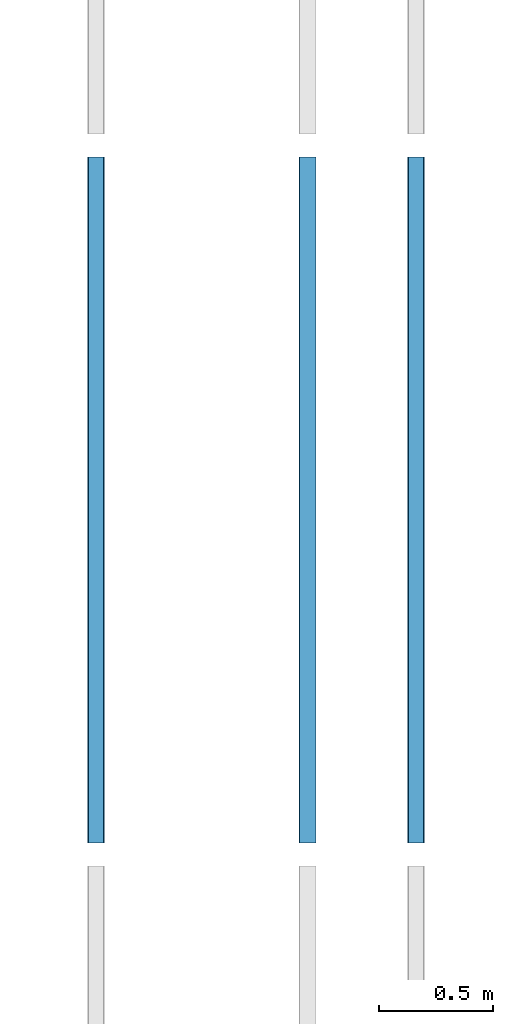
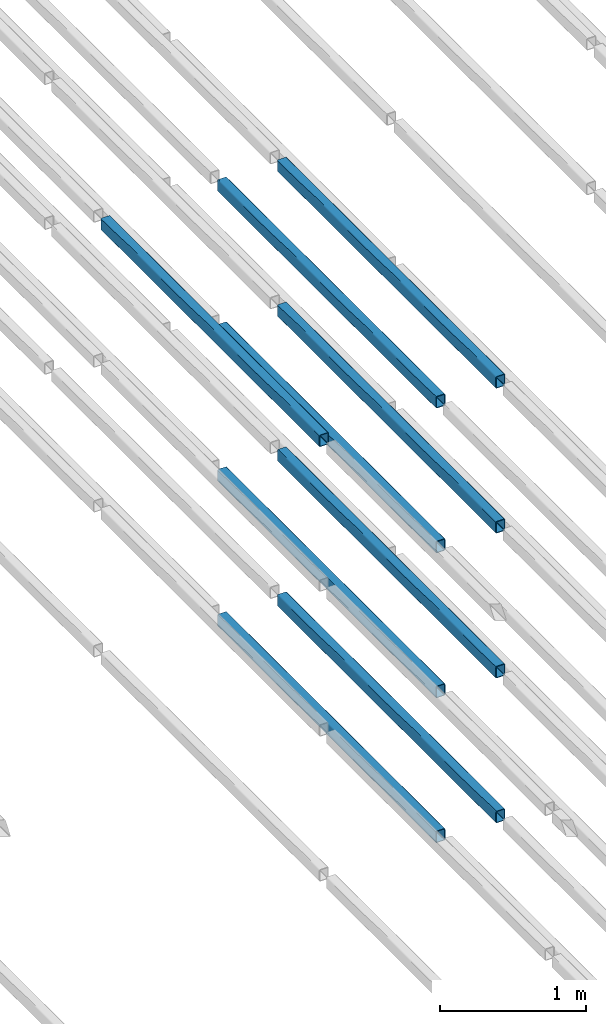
# One storey, part 84 of 290: 9 beams.
"""IFC2X3 building model written with IfcOpenShell, lengths in metres."""

import ifcopenshell
import ifcopenshell.guid

model = None  # the IFC model being written
_history = None  # IfcOwnerHistory: only IFC2X3 demands one
_inside = {}  # id of a spatial element -> (the spatial element, [elements in it])
_under = {}  # id of a project, library or spatial element -> (it, [spatial elements below it])
_declared = {}  # id of a project -> (the project, [libraries it declares])
_typed = {}  # id of a type object -> (the type object, [elements of that type])
_made_of = {}  # id of a material, layer set ... -> (it, [elements and type objects made of it])


def new_model(schema):
    """Start an empty IFC model of exactly this schema.

    Asked for "IFC4X3", IfcOpenShell would pick the latest addendum, in which some entities
    have other attributes; the version numbers below select the first issue.
    IFC2X3 requires an IfcOwnerHistory on every rooted entity: one is made here for all.
    """
    global model, _history
    if schema == "IFC4X3":
        model = ifcopenshell.file(schema_version=(4, 3, 0, 0))
    else:
        model = ifcopenshell.file(schema=schema)
    _inside.clear()
    _under.clear()
    _declared.clear()
    _typed.clear()
    _made_of.clear()
    _history = None
    if model.schema == "IFC2X3":
        org = make("IfcOrganization", Name="unknown")
        user = make(
            "IfcPersonAndOrganization",
            ThePerson=make("IfcPerson", FamilyName="unknown"),
            TheOrganization=org,
        )
        app = make(
            "IfcApplication",
            ApplicationDeveloper=org,
            Version="unknown",
            ApplicationFullName="unknown",
            ApplicationIdentifier="unknown",
        )
        _history = make(
            "IfcOwnerHistory",
            OwningUser=user,
            OwningApplication=app,
            ChangeAction="ADDED",
            CreationDate=0,
        )
    return model


def make(cls, **values):
    """One entity of the class cls with the attributes given. An attribute that is None is left unset."""
    return model.create_entity(
        cls, **{name: value for name, value in values.items() if value is not None}
    )


def entity(cls, *values):
    """Any entity or typed value of the class cls, its attributes in the order of the schema. None: left unset."""
    e = model.create_entity(cls)
    for i, value in enumerate(values):
        if value is not None:
            e[i] = value
    return e


def rooted(cls, **values):
    """An entity with a GlobalId (a new one), such as an element, a storey or a relation."""
    return make(cls, GlobalId=ifcopenshell.guid.new(), OwnerHistory=_history, **values)


def si_unit(unit_type, name, prefix=None):
    """IfcSIUnit, for example si_unit("LENGTHUNIT", "METRE", prefix="MILLI")."""
    return make("IfcSIUnit", UnitType=unit_type, Prefix=prefix, Name=name)


def converted_unit(unit_type, name, factor, base, dimensions=None, offset=None):
    """IfcConversionBasedUnit, such as the inch: factor (a typed value) times the base unit."""
    return make(
        "IfcConversionBasedUnit"
        if offset is None
        else "IfcConversionBasedUnitWithOffset",
        ConversionOffset=offset,
        Dimensions=None
        if dimensions is None
        else entity("IfcDimensionalExponents", *dimensions),
        UnitType=unit_type,
        Name=name,
        ConversionFactor=make(
            "IfcMeasureWithUnit", ValueComponent=factor, UnitComponent=base
        ),
    )


def derived_unit(unit_type, elements):
    """IfcDerivedUnit: a product of units, each with its exponent."""
    return make(
        "IfcDerivedUnit",
        Elements=[
            make("IfcDerivedUnitElement", Unit=unit, Exponent=power)
            for unit, power in elements
        ],
        UnitType=unit_type,
    )


def assignment(units):
    """IfcUnitAssignment: the units of a project."""
    return None if units is None else make("IfcUnitAssignment", Units=units)


def point(xyz):
    """IfcCartesianPoint."""
    return None if xyz is None else make("IfcCartesianPoint", Coordinates=xyz)


def direction(xyz):
    """IfcDirection."""
    return None if xyz is None else make("IfcDirection", DirectionRatios=xyz)


def frame(location, z_axis=None, x_axis=None):
    """IfcAxis2Placement3D, a coordinate frame: its origin and axes. An axis left out is left unset."""
    return make(
        "IfcAxis2Placement3D",
        Location=point(location),
        Axis=direction(z_axis),
        RefDirection=direction(x_axis),
    )


def frame_2d(location, x_axis=None):
    """IfcAxis2Placement2D, a coordinate frame in the plane: its origin and x axis."""
    return make(
        "IfcAxis2Placement2D", Location=point(location), RefDirection=direction(x_axis)
    )


def origin():
    """The frame at (0, 0, 0) with its axes left unset."""
    return frame((0.0, 0.0, 0.0))


def place(relative_to, where):
    """IfcLocalPlacement: puts the frame where relative to a parent placement (None: the world)."""
    return make(
        "IfcLocalPlacement", PlacementRelTo=relative_to, RelativePlacement=where
    )


def context(
    kind, dimensions, precision=None, world=None, true_north=None, identifier=None
):
    """IfcGeometricRepresentationContext, for example the 3D "Model" context."""
    return make(
        "IfcGeometricRepresentationContext",
        ContextIdentifier=identifier,
        ContextType=kind,
        CoordinateSpaceDimension=dimensions,
        Precision=precision,
        WorldCoordinateSystem=world,
        TrueNorth=true_north,
    )


def subcontext(parent, identifier, kind, view, scale=None):
    """IfcGeometricRepresentationSubContext, for example "Body" below "Model"."""
    return make(
        "IfcGeometricRepresentationSubContext",
        ContextIdentifier=identifier,
        ContextType=kind,
        ParentContext=parent,
        TargetScale=scale,
        TargetView=view,
    )


def project(units=None, contexts=None):
    """IfcProject with its units and contexts."""
    return rooted(
        "IfcProject",
        Name="project",
        RepresentationContexts=contexts,
        UnitsInContext=assignment(units),
    )


def spatial(cls, under=None, at=None, **own):
    """A site, building, storey or space (cls), placed at a placement, below another one or the project."""
    s = rooted(cls, ObjectPlacement=at, **own)
    if under is not None:
        _under.setdefault(under.id(), (under, []))[1].append(s)
    return s


def polyline(points):
    """IfcPolyline through the points."""
    return make("IfcPolyline", Points=[point(p) for p in points])


def circle_curve(where, radius):
    """IfcCircle in the frame where."""
    return make("IfcCircle", Position=where, Radius=radius)


def parameter(value):
    """IfcParameterValue: where a trimmed curve begins or ends, as a parameter of its basis curve."""
    return model.create_entity("IfcParameterValue", value)


def trimmed(basis, trim1, trim2, sense, master):
    """IfcTrimmedCurve: the piece of a basis curve between two trims."""
    return make(
        "IfcTrimmedCurve",
        BasisCurve=basis,
        Trim1=trim1,
        Trim2=trim2,
        SenseAgreement=sense,
        MasterRepresentation=master,
    )


def segment(curve, same_sense, transition):
    """IfcCompositeCurveSegment."""
    return make(
        "IfcCompositeCurveSegment",
        Transition=transition,
        SameSense=same_sense,
        ParentCurve=curve,
    )


def composite_curve(segments, self_intersect=None):
    """IfcCompositeCurve: segments joined end to end."""
    return make("IfcCompositeCurve", Segments=segments, SelfIntersect=self_intersect)


def outline(outer, holes=None, kind="AREA"):
    """IfcArbitraryClosedProfileDef: a profile drawn as a closed curve; with holes, ...WithVoids."""
    if holes is None:
        return make("IfcArbitraryClosedProfileDef", ProfileType=kind, OuterCurve=outer)
    return make(
        "IfcArbitraryProfileDefWithVoids",
        ProfileType=kind,
        OuterCurve=outer,
        InnerCurves=holes,
    )


def extrude(swept, where, along, depth):
    """IfcExtrudedAreaSolid: the profile swept, set in the frame where, extruded along a direction by depth."""
    return make(
        "IfcExtrudedAreaSolid",
        SweptArea=swept,
        Position=where,
        ExtrudedDirection=direction(along),
        Depth=depth,
    )


def shape(context_of_items, identifier, shape_type, items):
    """IfcShapeRepresentation: the items that make up one representation, for example the "Body"."""
    return make(
        "IfcShapeRepresentation",
        ContextOfItems=context_of_items,
        RepresentationIdentifier=identifier,
        RepresentationType=shape_type,
        Items=items,
    )


def material(Name=None, Category=None):
    """IfcMaterial."""
    return make("IfcMaterial", Name=Name, Category=Category)


def made_of(thing, what):
    """Note that an element or type object is made of a material, layer set ...; save() writes the relation."""
    if what is not None:
        _made_of.setdefault(what.id(), (what, []))[1].append(thing)
    return thing


def type_object(cls, material=None, **own):
    """A type object (cls), such as IfcWallType, which elements share."""
    return made_of(rooted(cls, **own), material)


def element(
    cls,
    number,
    at=None,
    inside=None,
    cuts=None,
    type_object=None,
    material=None,
    context=None,
    identifier="Body",
    shape_type=None,
    held_by="IfcProductDefinitionShape",
    body=None,
    shapes=None,
    **own,
):
    """One element of the class cls, such as IfcWall. Its Tag is "e" and its number.

    at: its placement. inside: the storey or other place that contains it. cuts: it is an
    opening in that element (IfcRelVoidsElement). A single representation is given by context,
    identifier, shape_type and body (its items); several are given by shapes. held_by: the class
    of the entity that holds the representations. save() writes the other relations.
    """
    e = rooted(cls, Tag="e%d" % number, ObjectPlacement=at, **own)
    if body is not None:
        shapes = [shape(context, identifier, shape_type, body)]
    if shapes is not None:
        e.Representation = make(held_by, Representations=shapes)
    if inside is not None:
        _inside.setdefault(inside.id(), (inside, []))[1].append(e)
    if cuts is not None:
        rooted(
            "IfcRelVoidsElement", RelatingBuildingElement=cuts, RelatedOpeningElement=e
        )
    if type_object is not None:
        _typed.setdefault(type_object.id(), (type_object, []))[1].append(e)
    return made_of(e, material)


def aggregate(whole, parts):
    """IfcRelAggregates: a whole, such as a stair, and the parts it consists of."""
    return rooted("IfcRelAggregates", RelatingObject=whole, RelatedObjects=parts)


def save(model, path):
    """Write the relations noted so far, then the file.

    IfcRelAggregates (storeys below a building ...), IfcRelContainedInSpatialStructure (elements
    in a storey), IfcRelDefinesByType, IfcRelAssociatesMaterial and IfcRelDeclares: one each for
    every whole, place, type object, material and project.
    """
    for whole, parts in _under.values():
        aggregate(whole, parts)
    for where, things in _inside.values():
        rooted(
            "IfcRelContainedInSpatialStructure",
            RelatedElements=things,
            RelatingStructure=where,
        )
    for kind, things in _typed.values():
        rooted("IfcRelDefinesByType", RelatedObjects=things, RelatingType=kind)
    for what, things in _made_of.values():
        rooted("IfcRelAssociatesMaterial", RelatedObjects=things, RelatingMaterial=what)
    for by, libraries in _declared.values():
        rooted("IfcRelDeclares", RelatingContext=by, RelatedDefinitions=libraries)
    model.write(path)


model = new_model("IFC2X3")

# Units and contexts
model_context = context("Model", 3, precision=1e-05, world=origin(), true_north=direction((6.12303176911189e-17, 1.0)))
body_context = subcontext(model_context, "Body", "Model", "MODEL_VIEW")
ifc_project = project(units=[si_unit("LENGTHUNIT", "METRE"), si_unit("AREAUNIT", "SQUARE_METRE"), si_unit("VOLUMEUNIT", "CUBIC_METRE"), converted_unit("PLANEANGLEUNIT", "DEGREE", entity("IfcRatioMeasure", 0.0174532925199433), si_unit("PLANEANGLEUNIT", "RADIAN"), dimensions=[0, 0, 0, 0, 0, 0, 0]), si_unit("MASSUNIT", "GRAM", prefix="KILO"), derived_unit("MASSDENSITYUNIT", [(si_unit("MASSUNIT", "GRAM", prefix="KILO"), 1), (si_unit("LENGTHUNIT", "METRE"), -3)]), derived_unit("MOMENTOFINERTIAUNIT", [(si_unit("LENGTHUNIT", "METRE"), 4)]), si_unit("TIMEUNIT", "SECOND"), si_unit("FREQUENCYUNIT", "HERTZ"), si_unit("THERMODYNAMICTEMPERATUREUNIT", "DEGREE_CELSIUS"), derived_unit("THERMALTRANSMITTANCEUNIT", [(si_unit("MASSUNIT", "GRAM", prefix="KILO"), 1), (si_unit("THERMODYNAMICTEMPERATUREUNIT", "KELVIN"), -1), (si_unit("TIMEUNIT", "SECOND"), -3)]), derived_unit("VOLUMETRICFLOWRATEUNIT", [(si_unit("LENGTHUNIT", "METRE"), 3), (si_unit("TIMEUNIT", "SECOND"), -1)]), si_unit("ELECTRICCURRENTUNIT", "AMPERE"), si_unit("ELECTRICVOLTAGEUNIT", "VOLT"), si_unit("POWERUNIT", "WATT"), si_unit("FORCEUNIT", "NEWTON", prefix="KILO"), si_unit("ILLUMINANCEUNIT", "LUX"), si_unit("LUMINOUSFLUXUNIT", "LUMEN"), si_unit("LUMINOUSINTENSITYUNIT", "CANDELA"), derived_unit("USERDEFINED", [(si_unit("MASSUNIT", "GRAM", prefix="KILO"), -1), (si_unit("LENGTHUNIT", "METRE"), -2), (si_unit("TIMEUNIT", "SECOND"), 3), (si_unit("LUMINOUSFLUXUNIT", "LUMEN"), 1)]), derived_unit("LINEARVELOCITYUNIT", [(si_unit("LENGTHUNIT", "METRE"), 1), (si_unit("TIMEUNIT", "SECOND"), -1)]), si_unit("PRESSUREUNIT", "PASCAL"), derived_unit("USERDEFINED", [(si_unit("LENGTHUNIT", "METRE"), -2), (si_unit("MASSUNIT", "GRAM", prefix="KILO"), 1), (si_unit("TIMEUNIT", "SECOND"), -2)]), derived_unit("LINEARFORCEUNIT", [(si_unit("MASSUNIT", "GRAM", prefix="KILO"), 1), (si_unit("LENGTHUNIT", "METRE"), 1), (si_unit("TIMEUNIT", "SECOND"), -2), (si_unit("LENGTHUNIT", "METRE"), -1)]), derived_unit("PLANARFORCEUNIT", [(si_unit("MASSUNIT", "GRAM", prefix="KILO"), 1), (si_unit("LENGTHUNIT", "METRE"), 1), (si_unit("TIMEUNIT", "SECOND"), -2), (si_unit("LENGTHUNIT", "METRE"), -2)])], contexts=[model_context])

# Site, building, storey
site_placement = place(None, origin())
site = spatial("IfcSite", under=ifc_project, at=site_placement, Name="Default", CompositionType="ELEMENT")
building_placement = place(site_placement, origin())
building = spatial("IfcBuilding", under=site, at=building_placement, CompositionType="ELEMENT")
storey_placement = place(building_placement, frame((0.0, 0.0, 4.0)))
storey = spatial("IfcBuildingStorey", under=building, at=storey_placement, Name="01_OG", CompositionType="ELEMENT", Elevation=4.0)

# Beams
ifc_material = material(Name="Metall - Baustahl S235 blau")
beam_type = type_object("IfcBeamType", Name="RHS Träger (EN 10219-2):RHS 100 x 75 x 5", PredefinedType="NOTDEFINED")
beam_1_placement = place(storey_placement, frame((-185.015111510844, 39.548088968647, 2.445), z_axis=(0.0, 0.0, 1.0), x_axis=(0.0, 1.0, 0.0)))
element("IfcBeam", 1, at=beam_1_placement, inside=storey, type_object=beam_type, material=ifc_material, Name="RHS Träger (EN 10219-2):RHS 100 x 75 x 5", ObjectType="RHS Träger (EN 10219-2):RHS 100 x 75 x 5", context=body_context, shape_type="SweptSolid", body=[
    extrude(outline(composite_curve([segment(trimmed(circle_curve(frame_2d((-0.0274999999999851, -0.0399999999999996), x_axis=(1.0, 0.0)), 0.01), [parameter(180.0)], [parameter(270.0)], True, "PARAMETER"), True, "CONTINUOUS"), segment(polyline([(-0.0274999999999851, -0.0499999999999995), (0.0274999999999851, -0.0499999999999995)]), True, "CONTINUOUS"), segment(trimmed(circle_curve(frame_2d((0.0274999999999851, -0.0399999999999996), x_axis=(1.0, 0.0)), 0.01), [parameter(270.0)], [parameter(5.08888749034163e-14)], True, "PARAMETER"), True, "CONTINUOUS"), segment(polyline([(0.0375000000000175, -0.0399999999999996), (0.0375000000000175, 0.0399999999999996)]), True, "CONTINUOUS"), segment(trimmed(circle_curve(frame_2d((0.0274999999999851, 0.0399999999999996), x_axis=(1.0, 0.0)), 0.01), [parameter(360.0)], [parameter(89.9999999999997)], True, "PARAMETER"), True, "CONTINUOUS"), segment(polyline([(0.0274999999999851, 0.0500000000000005), (-0.0274999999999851, 0.0500000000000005)]), True, "CONTINUOUS"), segment(trimmed(circle_curve(frame_2d((-0.0274999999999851, 0.0399999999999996), x_axis=(1.0, 0.0)), 0.01), [parameter(90.0000000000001)], [parameter(180.0)], True, "PARAMETER"), True, "CONTINUOUS"), segment(polyline([(-0.0374999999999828, 0.0399999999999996), (-0.0374999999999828, -0.0399999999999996)]), True, "CONTINUOUS")], self_intersect=False), holes=[composite_curve([segment(polyline([(0.0274999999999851, -0.0450000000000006), (-0.0274999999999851, -0.0450000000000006)]), True, "CONTINUOUS"), segment(trimmed(circle_curve(frame_2d((-0.0274999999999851, -0.0400000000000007), x_axis=(1.0, 0.0)), 0.005), [parameter(180.0)], [parameter(270.0)], True, "PARAMETER"), False, "CONTINUOUS"), segment(polyline([(-0.0325000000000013, -0.0400000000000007), (-0.0325000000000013, 0.0399999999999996)]), True, "CONTINUOUS"), segment(trimmed(circle_curve(frame_2d((-0.0274999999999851, 0.0399999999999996), x_axis=(1.0, 0.0)), 0.005), [parameter(90.0000000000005)], [parameter(180.0)], True, "PARAMETER"), False, "CONTINUOUS"), segment(polyline([(-0.0274999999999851, 0.0449999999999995), (0.0274999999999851, 0.0449999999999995)]), True, "CONTINUOUS"), segment(trimmed(circle_curve(frame_2d((0.0274999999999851, 0.0399999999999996), x_axis=(1.0, 0.0)), 0.005), [parameter(0.0)], [parameter(90.0000000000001)], True, "PARAMETER"), False, "CONTINUOUS"), segment(polyline([(0.0325000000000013, 0.0399999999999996), (0.0325000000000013, -0.0400000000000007)]), True, "CONTINUOUS"), segment(trimmed(circle_curve(frame_2d((0.0274999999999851, -0.0400000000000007), x_axis=(1.0, 0.0)), 0.005), [parameter(270.0)], [parameter(4.07110999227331e-13)], True, "PARAMETER"), False, "CONTINUOUS")], self_intersect=False)]), frame((0.000100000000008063, 0.0375000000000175, -0.0500000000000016), z_axis=(1.0, 0.0, 0.0), x_axis=(0.0, -1.0, 0.0)), (0.0, 0.0, 1.0), 2.99979999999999),
])
beam_2_placement = place(storey_placement, frame((-184.165111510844, 39.548088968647, -1.2), z_axis=(0.0, 0.0, 1.0), x_axis=(0.0, 1.0, 0.0)))
element("IfcBeam", 2, at=beam_2_placement, inside=storey, type_object=beam_type, material=ifc_material, Name="RHS Träger (EN 10219-2):RHS 100 x 75 x 5", ObjectType="RHS Träger (EN 10219-2):RHS 100 x 75 x 5", context=body_context, shape_type="SweptSolid", body=[
    extrude(outline(composite_curve([segment(polyline([(-0.0400000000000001, -0.0374999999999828), (0.0400000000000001, -0.0374999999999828)]), True, "CONTINUOUS"), segment(trimmed(circle_curve(frame_2d((0.0400000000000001, -0.0274999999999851), x_axis=(0.0, 1.0)), 0.01), [parameter(180.0)], [parameter(270.0)], True, "PARAMETER"), True, "CONTINUOUS"), segment(polyline([(0.05, -0.0274999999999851), (0.05, 0.0274999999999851)]), True, "CONTINUOUS"), segment(trimmed(circle_curve(frame_2d((0.0400000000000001, 0.0274999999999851), x_axis=(0.0, 1.0)), 0.01), [parameter(270.0)], [parameter(4.07110999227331e-13)], True, "PARAMETER"), True, "CONTINUOUS"), segment(polyline([(0.0400000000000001, 0.0375000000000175), (-0.0400000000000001, 0.0375000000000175)]), True, "CONTINUOUS"), segment(trimmed(circle_curve(frame_2d((-0.0400000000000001, 0.0274999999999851), x_axis=(0.0, 1.0)), 0.01), [parameter(360.0)], [parameter(90.0000000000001)], True, "PARAMETER"), True, "CONTINUOUS"), segment(polyline([(-0.05, 0.0274999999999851), (-0.05, -0.0274999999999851)]), True, "CONTINUOUS"), segment(trimmed(circle_curve(frame_2d((-0.0400000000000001, -0.0274999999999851), x_axis=(0.0, 1.0)), 0.01), [parameter(90.0000000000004)], [parameter(180.0)], True, "PARAMETER"), True, "CONTINUOUS")], self_intersect=False), holes=[composite_curve([segment(trimmed(circle_curve(frame_2d((-0.0400000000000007, 0.0274999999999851), x_axis=(0.0, 1.0)), 0.005), [parameter(360.0)], [parameter(89.9999999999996)], True, "PARAMETER"), False, "CONTINUOUS"), segment(polyline([(-0.0400000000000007, 0.0325000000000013), (0.039999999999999, 0.0325000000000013)]), True, "CONTINUOUS"), segment(trimmed(circle_curve(frame_2d((0.039999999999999, 0.0274999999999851), x_axis=(0.0, 1.0)), 0.005), [parameter(270.0)], [parameter(0.0)], True, "PARAMETER"), False, "CONTINUOUS"), segment(polyline([(0.044999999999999, 0.0274999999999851), (0.044999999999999, -0.0274999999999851)]), True, "CONTINUOUS"), segment(trimmed(circle_curve(frame_2d((0.039999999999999, -0.0274999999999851), x_axis=(0.0, 1.0)), 0.005), [parameter(180.0)], [parameter(269.999999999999)], True, "PARAMETER"), False, "CONTINUOUS"), segment(polyline([(0.039999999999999, -0.0325000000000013), (-0.0400000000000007, -0.0325000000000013)]), True, "CONTINUOUS"), segment(trimmed(circle_curve(frame_2d((-0.0400000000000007, -0.0274999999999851), x_axis=(0.0, 1.0)), 0.005), [parameter(90.0000000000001)], [parameter(180.0)], True, "PARAMETER"), False, "CONTINUOUS"), segment(polyline([(-0.0450000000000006, -0.0274999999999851), (-0.0450000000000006, 0.0274999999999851)]), True, "CONTINUOUS")], self_intersect=False)]), frame((0.000100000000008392, -0.0375000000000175, -0.0500000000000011), z_axis=(1.0, 0.0, 0.0), x_axis=(0.0, 0.0, -1.0)), (0.0, 0.0, 1.0), 2.99979999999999),
])
beam_3_placement = place(storey_placement, frame((-184.165111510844, 39.548088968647, 0.0150000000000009), z_axis=(0.0, 0.0, 1.0), x_axis=(0.0, 1.0, 0.0)))
element("IfcBeam", 3, at=beam_3_placement, inside=storey, type_object=beam_type, material=ifc_material, Name="RHS Träger (EN 10219-2):RHS 100 x 75 x 5", ObjectType="RHS Träger (EN 10219-2):RHS 100 x 75 x 5", context=body_context, shape_type="SweptSolid", body=[
    extrude(outline(composite_curve([segment(polyline([(-0.0400000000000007, -0.0374999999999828), (0.0399999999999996, -0.0374999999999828)]), True, "CONTINUOUS"), segment(trimmed(circle_curve(frame_2d((0.0399999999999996, -0.0274999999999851), x_axis=(0.0, 1.0)), 0.01), [parameter(180.0)], [parameter(270.0)], True, "PARAMETER"), True, "CONTINUOUS"), segment(polyline([(0.0499999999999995, -0.0274999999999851), (0.0499999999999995, 0.0274999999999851)]), True, "CONTINUOUS"), segment(trimmed(circle_curve(frame_2d((0.0399999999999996, 0.0274999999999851), x_axis=(0.0, 1.0)), 0.01), [parameter(270.0)], [parameter(4.07110999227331e-13)], True, "PARAMETER"), True, "CONTINUOUS"), segment(polyline([(0.0399999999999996, 0.0375000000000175), (-0.0400000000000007, 0.0375000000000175)]), True, "CONTINUOUS"), segment(trimmed(circle_curve(frame_2d((-0.0400000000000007, 0.0274999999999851), x_axis=(0.0, 1.0)), 0.01), [parameter(360.0)], [parameter(90.0000000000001)], True, "PARAMETER"), True, "CONTINUOUS"), segment(polyline([(-0.0500000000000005, 0.0274999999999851), (-0.0500000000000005, -0.0274999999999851)]), True, "CONTINUOUS"), segment(trimmed(circle_curve(frame_2d((-0.0400000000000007, -0.0274999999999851), x_axis=(0.0, 1.0)), 0.01), [parameter(90.0000000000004)], [parameter(180.0)], True, "PARAMETER"), True, "CONTINUOUS")], self_intersect=False), holes=[composite_curve([segment(trimmed(circle_curve(frame_2d((-0.0400000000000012, 0.0274999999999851), x_axis=(0.0, 1.0)), 0.005), [parameter(360.0)], [parameter(89.9999999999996)], True, "PARAMETER"), False, "CONTINUOUS"), segment(polyline([(-0.0400000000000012, 0.0325000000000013), (0.0399999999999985, 0.0325000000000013)]), True, "CONTINUOUS"), segment(trimmed(circle_curve(frame_2d((0.0399999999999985, 0.0274999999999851), x_axis=(0.0, 1.0)), 0.005), [parameter(270.0)], [parameter(0.0)], True, "PARAMETER"), False, "CONTINUOUS"), segment(polyline([(0.0449999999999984, 0.0274999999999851), (0.0449999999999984, -0.0274999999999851)]), True, "CONTINUOUS"), segment(trimmed(circle_curve(frame_2d((0.0399999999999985, -0.0274999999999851), x_axis=(0.0, 1.0)), 0.005), [parameter(180.0)], [parameter(269.999999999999)], True, "PARAMETER"), False, "CONTINUOUS"), segment(polyline([(0.0399999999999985, -0.0325000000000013), (-0.0400000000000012, -0.0325000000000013)]), True, "CONTINUOUS"), segment(trimmed(circle_curve(frame_2d((-0.0400000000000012, -0.0274999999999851), x_axis=(0.0, 1.0)), 0.005), [parameter(90.0000000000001)], [parameter(180.0)], True, "PARAMETER"), False, "CONTINUOUS"), segment(polyline([(-0.0450000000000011, -0.0274999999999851), (-0.0450000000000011, 0.0274999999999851)]), True, "CONTINUOUS")], self_intersect=False)]), frame((0.000100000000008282, -0.0375000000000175, -0.0500000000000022), z_axis=(1.0, 0.0, 0.0), x_axis=(0.0, 0.0, -1.0)), (0.0, 0.0, 1.0), 2.99979999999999),
])
beam_4_placement = place(storey_placement, frame((-184.165111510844, 39.548088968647, 1.23), z_axis=(0.0, 0.0, 1.0), x_axis=(0.0, 1.0, 0.0)))
element("IfcBeam", 4, at=beam_4_placement, inside=storey, type_object=beam_type, material=ifc_material, Name="RHS Träger (EN 10219-2):RHS 100 x 75 x 5", ObjectType="RHS Träger (EN 10219-2):RHS 100 x 75 x 5", context=body_context, shape_type="SweptSolid", body=[
    extrude(outline(composite_curve([segment(polyline([(-0.0399999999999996, -0.0374999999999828), (0.0399999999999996, -0.0374999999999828)]), True, "CONTINUOUS"), segment(trimmed(circle_curve(frame_2d((0.0399999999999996, -0.0274999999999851), x_axis=(0.0, 1.0)), 0.01), [parameter(180.0)], [parameter(270.0)], True, "PARAMETER"), True, "CONTINUOUS"), segment(polyline([(0.0500000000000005, -0.0274999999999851), (0.0500000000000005, 0.0274999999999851)]), True, "CONTINUOUS"), segment(trimmed(circle_curve(frame_2d((0.0399999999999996, 0.0274999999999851), x_axis=(0.0, 1.0)), 0.01), [parameter(270.0)], [parameter(4.07110999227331e-13)], True, "PARAMETER"), True, "CONTINUOUS"), segment(polyline([(0.0399999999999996, 0.0375000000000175), (-0.0399999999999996, 0.0375000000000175)]), True, "CONTINUOUS"), segment(trimmed(circle_curve(frame_2d((-0.0399999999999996, 0.0274999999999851), x_axis=(0.0, 1.0)), 0.01), [parameter(360.0)], [parameter(90.0000000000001)], True, "PARAMETER"), True, "CONTINUOUS"), segment(polyline([(-0.0499999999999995, 0.0274999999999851), (-0.0499999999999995, -0.0274999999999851)]), True, "CONTINUOUS"), segment(trimmed(circle_curve(frame_2d((-0.0399999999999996, -0.0274999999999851), x_axis=(0.0, 1.0)), 0.01), [parameter(90.0000000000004)], [parameter(180.0)], True, "PARAMETER"), True, "CONTINUOUS")], self_intersect=False), holes=[composite_curve([segment(trimmed(circle_curve(frame_2d((-0.0400000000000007, 0.0274999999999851), x_axis=(0.0, 1.0)), 0.005), [parameter(360.0)], [parameter(89.9999999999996)], True, "PARAMETER"), False, "CONTINUOUS"), segment(polyline([(-0.0400000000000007, 0.0325000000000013), (0.0399999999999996, 0.0325000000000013)]), True, "CONTINUOUS"), segment(trimmed(circle_curve(frame_2d((0.0399999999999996, 0.0274999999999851), x_axis=(0.0, 1.0)), 0.005), [parameter(270.0)], [parameter(0.0)], True, "PARAMETER"), False, "CONTINUOUS"), segment(polyline([(0.0449999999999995, 0.0274999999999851), (0.0449999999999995, -0.0274999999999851)]), True, "CONTINUOUS"), segment(trimmed(circle_curve(frame_2d((0.0399999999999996, -0.0274999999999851), x_axis=(0.0, 1.0)), 0.005), [parameter(180.0)], [parameter(269.999999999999)], True, "PARAMETER"), False, "CONTINUOUS"), segment(polyline([(0.0399999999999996, -0.0325000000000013), (-0.0400000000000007, -0.0325000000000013)]), True, "CONTINUOUS"), segment(trimmed(circle_curve(frame_2d((-0.0400000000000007, -0.0274999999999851), x_axis=(0.0, 1.0)), 0.005), [parameter(90.0000000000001)], [parameter(180.0)], True, "PARAMETER"), False, "CONTINUOUS"), segment(polyline([(-0.0450000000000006, -0.0274999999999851), (-0.0450000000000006, 0.0274999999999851)]), True, "CONTINUOUS")], self_intersect=False)]), frame((0.000100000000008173, -0.0375000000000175, -0.0500000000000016), z_axis=(1.0, 0.0, 0.0), x_axis=(0.0, 0.0, -1.0)), (0.0, 0.0, 1.0), 2.99979999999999),
])
beam_5_placement = place(storey_placement, frame((-184.165111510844, 39.548088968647, 2.445), z_axis=(0.0, 0.0, 1.0), x_axis=(0.0, 1.0, 0.0)))
element("IfcBeam", 5, at=beam_5_placement, inside=storey, type_object=beam_type, material=ifc_material, Name="RHS Träger (EN 10219-2):RHS 100 x 75 x 5", ObjectType="RHS Träger (EN 10219-2):RHS 100 x 75 x 5", context=body_context, shape_type="SweptSolid", body=[
    extrude(outline(composite_curve([segment(polyline([(-0.0399999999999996, -0.0374999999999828), (0.0399999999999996, -0.0374999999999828)]), True, "CONTINUOUS"), segment(trimmed(circle_curve(frame_2d((0.0399999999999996, -0.0274999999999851), x_axis=(0.0, 1.0)), 0.01), [parameter(180.0)], [parameter(270.0)], True, "PARAMETER"), True, "CONTINUOUS"), segment(polyline([(0.0500000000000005, -0.0274999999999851), (0.0500000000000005, 0.0274999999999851)]), True, "CONTINUOUS"), segment(trimmed(circle_curve(frame_2d((0.0399999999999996, 0.0274999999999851), x_axis=(0.0, 1.0)), 0.01), [parameter(270.0)], [parameter(4.07110999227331e-13)], True, "PARAMETER"), True, "CONTINUOUS"), segment(polyline([(0.0399999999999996, 0.0375000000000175), (-0.0399999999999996, 0.0375000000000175)]), True, "CONTINUOUS"), segment(trimmed(circle_curve(frame_2d((-0.0399999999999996, 0.0274999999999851), x_axis=(0.0, 1.0)), 0.01), [parameter(360.0)], [parameter(90.0000000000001)], True, "PARAMETER"), True, "CONTINUOUS"), segment(polyline([(-0.0499999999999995, 0.0274999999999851), (-0.0499999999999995, -0.0274999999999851)]), True, "CONTINUOUS"), segment(trimmed(circle_curve(frame_2d((-0.0399999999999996, -0.0274999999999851), x_axis=(0.0, 1.0)), 0.01), [parameter(90.0000000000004)], [parameter(180.0)], True, "PARAMETER"), True, "CONTINUOUS")], self_intersect=False), holes=[composite_curve([segment(trimmed(circle_curve(frame_2d((-0.0400000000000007, 0.0274999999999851), x_axis=(0.0, 1.0)), 0.005), [parameter(360.0)], [parameter(89.9999999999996)], True, "PARAMETER"), False, "CONTINUOUS"), segment(polyline([(-0.0400000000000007, 0.0325000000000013), (0.0399999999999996, 0.0325000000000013)]), True, "CONTINUOUS"), segment(trimmed(circle_curve(frame_2d((0.0399999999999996, 0.0274999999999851), x_axis=(0.0, 1.0)), 0.005), [parameter(270.0)], [parameter(0.0)], True, "PARAMETER"), False, "CONTINUOUS"), segment(polyline([(0.0449999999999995, 0.0274999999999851), (0.0449999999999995, -0.0274999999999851)]), True, "CONTINUOUS"), segment(trimmed(circle_curve(frame_2d((0.0399999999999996, -0.0274999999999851), x_axis=(0.0, 1.0)), 0.005), [parameter(180.0)], [parameter(269.999999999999)], True, "PARAMETER"), False, "CONTINUOUS"), segment(polyline([(0.0399999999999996, -0.0325000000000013), (-0.0400000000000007, -0.0325000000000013)]), True, "CONTINUOUS"), segment(trimmed(circle_curve(frame_2d((-0.0400000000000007, -0.0274999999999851), x_axis=(0.0, 1.0)), 0.005), [parameter(90.0000000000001)], [parameter(180.0)], True, "PARAMETER"), False, "CONTINUOUS"), segment(polyline([(-0.0450000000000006, -0.0274999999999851), (-0.0450000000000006, 0.0274999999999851)]), True, "CONTINUOUS")], self_intersect=False)]), frame((0.000100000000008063, -0.0375000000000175, -0.0500000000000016), z_axis=(1.0, 0.0, 0.0), x_axis=(0.0, 0.0, -1.0)), (0.0, 0.0, 1.0), 2.99979999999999),
])
beam_6_placement = place(storey_placement, frame((-183.615111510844, 39.548088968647, -1.2), z_axis=(0.0, 0.0, 1.0), x_axis=(0.0, 1.0, 0.0)))
element("IfcBeam", 6, at=beam_6_placement, inside=storey, type_object=beam_type, material=ifc_material, Name="RHS Träger (EN 10219-2):RHS 100 x 75 x 5", ObjectType="RHS Träger (EN 10219-2):RHS 100 x 75 x 5", context=body_context, shape_type="SweptSolid", body=[
    extrude(outline(composite_curve([segment(trimmed(circle_curve(frame_2d((-0.0274999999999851, -0.0400000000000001), x_axis=(1.0, 0.0)), 0.01), [parameter(180.0)], [parameter(270.0)], True, "PARAMETER"), True, "CONTINUOUS"), segment(polyline([(-0.0274999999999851, -0.05), (0.0274999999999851, -0.05)]), True, "CONTINUOUS"), segment(trimmed(circle_curve(frame_2d((0.0274999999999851, -0.0400000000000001), x_axis=(1.0, 0.0)), 0.01), [parameter(270.0)], [parameter(5.08888749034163e-14)], True, "PARAMETER"), True, "CONTINUOUS"), segment(polyline([(0.0375000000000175, -0.0400000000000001), (0.0375000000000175, 0.0400000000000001)]), True, "CONTINUOUS"), segment(trimmed(circle_curve(frame_2d((0.0274999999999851, 0.0400000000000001), x_axis=(1.0, 0.0)), 0.01), [parameter(360.0)], [parameter(89.9999999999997)], True, "PARAMETER"), True, "CONTINUOUS"), segment(polyline([(0.0274999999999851, 0.05), (-0.0274999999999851, 0.05)]), True, "CONTINUOUS"), segment(trimmed(circle_curve(frame_2d((-0.0274999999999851, 0.0400000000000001), x_axis=(1.0, 0.0)), 0.01), [parameter(90.0000000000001)], [parameter(180.0)], True, "PARAMETER"), True, "CONTINUOUS"), segment(polyline([(-0.0374999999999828, 0.0400000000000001), (-0.0374999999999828, -0.0400000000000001)]), True, "CONTINUOUS")], self_intersect=False), holes=[composite_curve([segment(polyline([(0.0274999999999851, -0.0450000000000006), (-0.0274999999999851, -0.0450000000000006)]), True, "CONTINUOUS"), segment(trimmed(circle_curve(frame_2d((-0.0274999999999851, -0.0400000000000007), x_axis=(1.0, 0.0)), 0.005), [parameter(180.0)], [parameter(270.0)], True, "PARAMETER"), False, "CONTINUOUS"), segment(polyline([(-0.0325000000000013, -0.0400000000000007), (-0.0325000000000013, 0.039999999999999)]), True, "CONTINUOUS"), segment(trimmed(circle_curve(frame_2d((-0.0274999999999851, 0.039999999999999), x_axis=(1.0, 0.0)), 0.005), [parameter(90.0000000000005)], [parameter(180.0)], True, "PARAMETER"), False, "CONTINUOUS"), segment(polyline([(-0.0274999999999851, 0.044999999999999), (0.0274999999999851, 0.044999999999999)]), True, "CONTINUOUS"), segment(trimmed(circle_curve(frame_2d((0.0274999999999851, 0.039999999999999), x_axis=(1.0, 0.0)), 0.005), [parameter(0.0)], [parameter(90.0000000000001)], True, "PARAMETER"), False, "CONTINUOUS"), segment(polyline([(0.0325000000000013, 0.039999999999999), (0.0325000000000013, -0.0400000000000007)]), True, "CONTINUOUS"), segment(trimmed(circle_curve(frame_2d((0.0274999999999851, -0.0400000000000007), x_axis=(1.0, 0.0)), 0.005), [parameter(270.0)], [parameter(4.07110999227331e-13)], True, "PARAMETER"), False, "CONTINUOUS")], self_intersect=False)]), frame((0.000100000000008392, 0.0375000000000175, -0.0500000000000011), z_axis=(1.0, 0.0, 0.0), x_axis=(0.0, -1.0, 0.0)), (0.0, 0.0, 1.0), 2.99979999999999),
])
beam_7_placement = place(storey_placement, frame((-183.615111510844, 39.548088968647, 0.0150000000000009), z_axis=(0.0, 0.0, 1.0), x_axis=(0.0, 1.0, 0.0)))
element("IfcBeam", 7, at=beam_7_placement, inside=storey, type_object=beam_type, material=ifc_material, Name="RHS Träger (EN 10219-2):RHS 100 x 75 x 5", ObjectType="RHS Träger (EN 10219-2):RHS 100 x 75 x 5", context=body_context, shape_type="SweptSolid", body=[
    extrude(outline(composite_curve([segment(trimmed(circle_curve(frame_2d((-0.0274999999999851, -0.0400000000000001), x_axis=(1.0, 0.0)), 0.01), [parameter(180.0)], [parameter(270.0)], True, "PARAMETER"), True, "CONTINUOUS"), segment(polyline([(-0.0274999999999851, -0.05), (0.0274999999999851, -0.05)]), True, "CONTINUOUS"), segment(trimmed(circle_curve(frame_2d((0.0274999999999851, -0.0400000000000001), x_axis=(1.0, 0.0)), 0.01), [parameter(270.0)], [parameter(5.08888749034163e-14)], True, "PARAMETER"), True, "CONTINUOUS"), segment(polyline([(0.0375000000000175, -0.0400000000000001), (0.0375000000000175, 0.0400000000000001)]), True, "CONTINUOUS"), segment(trimmed(circle_curve(frame_2d((0.0274999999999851, 0.0400000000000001), x_axis=(1.0, 0.0)), 0.01), [parameter(360.0)], [parameter(89.9999999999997)], True, "PARAMETER"), True, "CONTINUOUS"), segment(polyline([(0.0274999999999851, 0.05), (-0.0274999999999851, 0.05)]), True, "CONTINUOUS"), segment(trimmed(circle_curve(frame_2d((-0.0274999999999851, 0.0400000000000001), x_axis=(1.0, 0.0)), 0.01), [parameter(90.0000000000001)], [parameter(180.0)], True, "PARAMETER"), True, "CONTINUOUS"), segment(polyline([(-0.0374999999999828, 0.0400000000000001), (-0.0374999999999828, -0.0400000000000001)]), True, "CONTINUOUS")], self_intersect=False), holes=[composite_curve([segment(polyline([(0.0274999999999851, -0.0450000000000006), (-0.0274999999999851, -0.0450000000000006)]), True, "CONTINUOUS"), segment(trimmed(circle_curve(frame_2d((-0.0274999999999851, -0.0400000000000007), x_axis=(1.0, 0.0)), 0.005), [parameter(180.0)], [parameter(270.0)], True, "PARAMETER"), False, "CONTINUOUS"), segment(polyline([(-0.0325000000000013, -0.0400000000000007), (-0.0325000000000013, 0.039999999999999)]), True, "CONTINUOUS"), segment(trimmed(circle_curve(frame_2d((-0.0274999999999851, 0.039999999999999), x_axis=(1.0, 0.0)), 0.005), [parameter(90.0000000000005)], [parameter(180.0)], True, "PARAMETER"), False, "CONTINUOUS"), segment(polyline([(-0.0274999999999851, 0.044999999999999), (0.0274999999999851, 0.044999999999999)]), True, "CONTINUOUS"), segment(trimmed(circle_curve(frame_2d((0.0274999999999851, 0.039999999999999), x_axis=(1.0, 0.0)), 0.005), [parameter(0.0)], [parameter(90.0000000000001)], True, "PARAMETER"), False, "CONTINUOUS"), segment(polyline([(0.0325000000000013, 0.039999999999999), (0.0325000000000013, -0.0400000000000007)]), True, "CONTINUOUS"), segment(trimmed(circle_curve(frame_2d((0.0274999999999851, -0.0400000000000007), x_axis=(1.0, 0.0)), 0.005), [parameter(270.0)], [parameter(4.07110999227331e-13)], True, "PARAMETER"), False, "CONTINUOUS")], self_intersect=False)]), frame((0.000100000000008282, 0.0375000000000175, -0.0500000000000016), z_axis=(1.0, 0.0, 0.0), x_axis=(0.0, -1.0, 0.0)), (0.0, 0.0, 1.0), 2.99979999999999),
])
beam_8_placement = place(storey_placement, frame((-183.615111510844, 39.548088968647, 1.23), z_axis=(0.0, 0.0, 1.0), x_axis=(0.0, 1.0, 0.0)))
element("IfcBeam", 8, at=beam_8_placement, inside=storey, type_object=beam_type, material=ifc_material, Name="RHS Träger (EN 10219-2):RHS 100 x 75 x 5", ObjectType="RHS Träger (EN 10219-2):RHS 100 x 75 x 5", context=body_context, shape_type="SweptSolid", body=[
    extrude(outline(composite_curve([segment(trimmed(circle_curve(frame_2d((-0.0274999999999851, -0.0399999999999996), x_axis=(1.0, 0.0)), 0.01), [parameter(180.0)], [parameter(270.0)], True, "PARAMETER"), True, "CONTINUOUS"), segment(polyline([(-0.0274999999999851, -0.0499999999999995), (0.0274999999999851, -0.0499999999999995)]), True, "CONTINUOUS"), segment(trimmed(circle_curve(frame_2d((0.0274999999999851, -0.0399999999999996), x_axis=(1.0, 0.0)), 0.01), [parameter(270.0)], [parameter(5.08888749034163e-14)], True, "PARAMETER"), True, "CONTINUOUS"), segment(polyline([(0.0375000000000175, -0.0399999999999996), (0.0375000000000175, 0.0399999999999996)]), True, "CONTINUOUS"), segment(trimmed(circle_curve(frame_2d((0.0274999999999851, 0.0399999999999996), x_axis=(1.0, 0.0)), 0.01), [parameter(360.0)], [parameter(89.9999999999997)], True, "PARAMETER"), True, "CONTINUOUS"), segment(polyline([(0.0274999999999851, 0.0500000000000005), (-0.0274999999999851, 0.0500000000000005)]), True, "CONTINUOUS"), segment(trimmed(circle_curve(frame_2d((-0.0274999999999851, 0.0399999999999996), x_axis=(1.0, 0.0)), 0.01), [parameter(90.0000000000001)], [parameter(180.0)], True, "PARAMETER"), True, "CONTINUOUS"), segment(polyline([(-0.0374999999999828, 0.0399999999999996), (-0.0374999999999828, -0.0399999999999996)]), True, "CONTINUOUS")], self_intersect=False), holes=[composite_curve([segment(polyline([(0.0274999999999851, -0.0450000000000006), (-0.0274999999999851, -0.0450000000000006)]), True, "CONTINUOUS"), segment(trimmed(circle_curve(frame_2d((-0.0274999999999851, -0.0400000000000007), x_axis=(1.0, 0.0)), 0.005), [parameter(180.0)], [parameter(270.0)], True, "PARAMETER"), False, "CONTINUOUS"), segment(polyline([(-0.0325000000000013, -0.0400000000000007), (-0.0325000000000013, 0.0399999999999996)]), True, "CONTINUOUS"), segment(trimmed(circle_curve(frame_2d((-0.0274999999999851, 0.0399999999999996), x_axis=(1.0, 0.0)), 0.005), [parameter(90.0000000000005)], [parameter(180.0)], True, "PARAMETER"), False, "CONTINUOUS"), segment(polyline([(-0.0274999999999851, 0.0449999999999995), (0.0274999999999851, 0.0449999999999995)]), True, "CONTINUOUS"), segment(trimmed(circle_curve(frame_2d((0.0274999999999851, 0.0399999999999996), x_axis=(1.0, 0.0)), 0.005), [parameter(0.0)], [parameter(90.0000000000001)], True, "PARAMETER"), False, "CONTINUOUS"), segment(polyline([(0.0325000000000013, 0.0399999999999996), (0.0325000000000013, -0.0400000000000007)]), True, "CONTINUOUS"), segment(trimmed(circle_curve(frame_2d((0.0274999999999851, -0.0400000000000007), x_axis=(1.0, 0.0)), 0.005), [parameter(270.0)], [parameter(4.07110999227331e-13)], True, "PARAMETER"), False, "CONTINUOUS")], self_intersect=False)]), frame((0.000100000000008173, 0.0375000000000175, -0.0500000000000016), z_axis=(1.0, 0.0, 0.0), x_axis=(0.0, -1.0, 0.0)), (0.0, 0.0, 1.0), 2.99979999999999),
])
beam_9_placement = place(storey_placement, frame((-183.615111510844, 39.548088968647, 2.445), z_axis=(0.0, 0.0, 1.0), x_axis=(0.0, 1.0, 0.0)))
element("IfcBeam", 9, at=beam_9_placement, inside=storey, type_object=beam_type, material=ifc_material, Name="RHS Träger (EN 10219-2):RHS 100 x 75 x 5", ObjectType="RHS Träger (EN 10219-2):RHS 100 x 75 x 5", context=body_context, shape_type="SweptSolid", body=[
    extrude(outline(composite_curve([segment(trimmed(circle_curve(frame_2d((-0.0274999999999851, -0.0399999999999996), x_axis=(1.0, 0.0)), 0.01), [parameter(180.0)], [parameter(270.0)], True, "PARAMETER"), True, "CONTINUOUS"), segment(polyline([(-0.0274999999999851, -0.0499999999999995), (0.0274999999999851, -0.0499999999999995)]), True, "CONTINUOUS"), segment(trimmed(circle_curve(frame_2d((0.0274999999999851, -0.0399999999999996), x_axis=(1.0, 0.0)), 0.01), [parameter(270.0)], [parameter(5.08888749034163e-14)], True, "PARAMETER"), True, "CONTINUOUS"), segment(polyline([(0.0375000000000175, -0.0399999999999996), (0.0375000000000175, 0.0399999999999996)]), True, "CONTINUOUS"), segment(trimmed(circle_curve(frame_2d((0.0274999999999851, 0.0399999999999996), x_axis=(1.0, 0.0)), 0.01), [parameter(360.0)], [parameter(89.9999999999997)], True, "PARAMETER"), True, "CONTINUOUS"), segment(polyline([(0.0274999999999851, 0.0500000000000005), (-0.0274999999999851, 0.0500000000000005)]), True, "CONTINUOUS"), segment(trimmed(circle_curve(frame_2d((-0.0274999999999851, 0.0399999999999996), x_axis=(1.0, 0.0)), 0.01), [parameter(90.0000000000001)], [parameter(180.0)], True, "PARAMETER"), True, "CONTINUOUS"), segment(polyline([(-0.0374999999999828, 0.0399999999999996), (-0.0374999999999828, -0.0399999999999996)]), True, "CONTINUOUS")], self_intersect=False), holes=[composite_curve([segment(polyline([(0.0274999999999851, -0.0450000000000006), (-0.0274999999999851, -0.0450000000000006)]), True, "CONTINUOUS"), segment(trimmed(circle_curve(frame_2d((-0.0274999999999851, -0.0400000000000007), x_axis=(1.0, 0.0)), 0.005), [parameter(180.0)], [parameter(270.0)], True, "PARAMETER"), False, "CONTINUOUS"), segment(polyline([(-0.0325000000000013, -0.0400000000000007), (-0.0325000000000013, 0.0399999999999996)]), True, "CONTINUOUS"), segment(trimmed(circle_curve(frame_2d((-0.0274999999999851, 0.0399999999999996), x_axis=(1.0, 0.0)), 0.005), [parameter(90.0000000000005)], [parameter(180.0)], True, "PARAMETER"), False, "CONTINUOUS"), segment(polyline([(-0.0274999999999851, 0.0449999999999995), (0.0274999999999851, 0.0449999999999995)]), True, "CONTINUOUS"), segment(trimmed(circle_curve(frame_2d((0.0274999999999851, 0.0399999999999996), x_axis=(1.0, 0.0)), 0.005), [parameter(0.0)], [parameter(90.0000000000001)], True, "PARAMETER"), False, "CONTINUOUS"), segment(polyline([(0.0325000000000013, 0.0399999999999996), (0.0325000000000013, -0.0400000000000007)]), True, "CONTINUOUS"), segment(trimmed(circle_curve(frame_2d((0.0274999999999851, -0.0400000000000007), x_axis=(1.0, 0.0)), 0.005), [parameter(270.0)], [parameter(4.07110999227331e-13)], True, "PARAMETER"), False, "CONTINUOUS")], self_intersect=False)]), frame((0.000100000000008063, 0.0375000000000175, -0.0500000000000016), z_axis=(1.0, 0.0, 0.0), x_axis=(0.0, -1.0, 0.0)), (0.0, 0.0, 1.0), 2.99979999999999),
])

save(model, "model.ifc")
